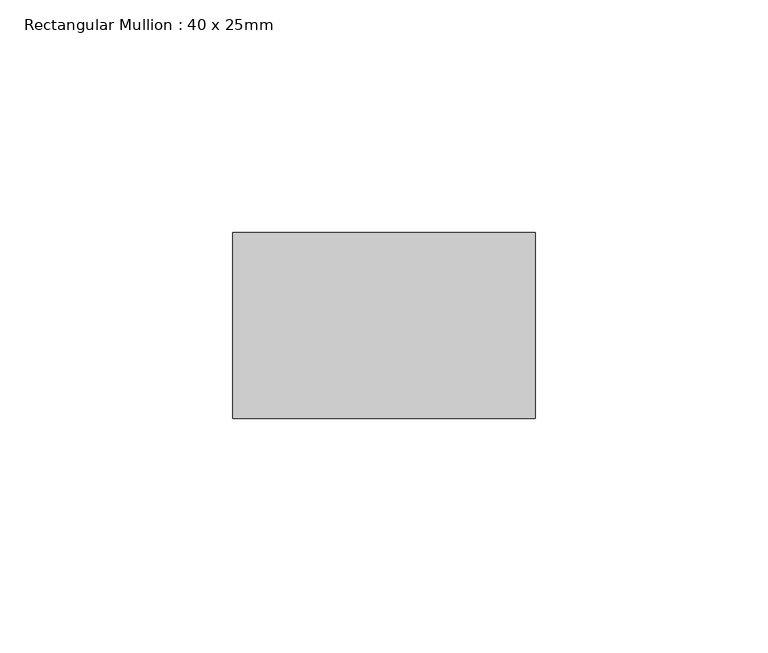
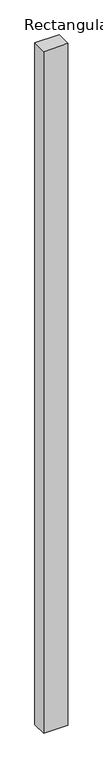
"""IFC4 building model written with IfcOpenShell, lengths in millimetres: member geometry, Rectangular Mullion : 40 x 25mm."""

from ifc_helpers import new_model, si_unit, frame, origin, place, context, project, spatial, polyline, outline, extrude, source, transform, mapped, element, save


def rectangular_mullion_40_x_25mm_e4597650(model_context):
    return source(origin(), model_context, "Body", "SweptSolid", [
        extrude(outline(polyline([(0.0, -20.0), (0.0, -60.0), (-65.0, -60.0), (-65.0, -20.0), (0.0, -20.0)])), frame((0.0, 0.0, -1930.0), z_axis=(0.0, 0.0, 1.0), x_axis=(1.0, 0.0, 0.0)), (0.0, 0.0, 1.0), 1930.0),
    ])


if __name__ == "__main__":
    model = new_model("IFC4")
    model_context = context("Model", 3, world=origin())
    ifc_project = project(units=[si_unit("LENGTHUNIT", "METRE", prefix="MILLI")], contexts=[model_context])
    site = spatial("IfcSite", under=ifc_project)
    building = spatial("IfcBuilding", under=site)
    placement = place(None, origin())
    rectangular_mullion_40_x_25mm_shape = rectangular_mullion_40_x_25mm_e4597650(model_context)
    element("IfcMember", 1, ObjectType="Rectangular Mullion : 40 x 25mm", at=placement, inside=building, context=model_context, shape_type="MappedRepresentation", body=[
        mapped(rectangular_mullion_40_x_25mm_shape, transform((0.0, 0.0, 0.0), x_axis=(1.0, 0.0, 0.0), y_axis=(0.0, 1.0, 0.0), z_axis=(0.0, 0.0, 1.0))),
    ])
    save(model, "model.ifc")
